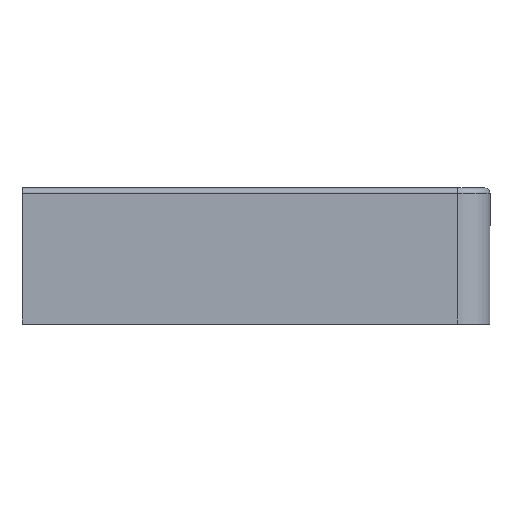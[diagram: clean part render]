
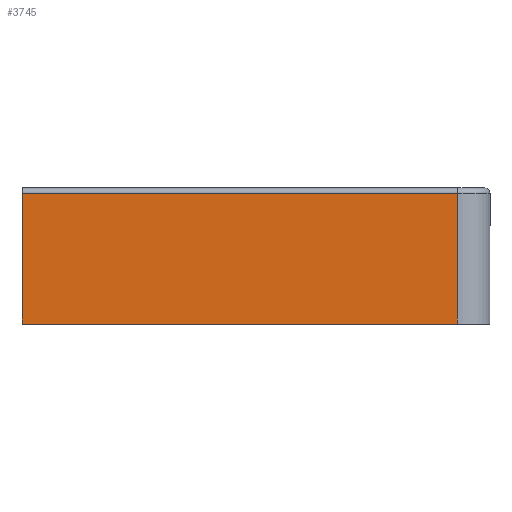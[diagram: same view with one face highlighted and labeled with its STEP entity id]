
A CAD part, left-side view. The second image highlights one B-rep face of the part: STEP entity #3745.
In plain terms, the highlighted planar face has unit normal (-1, 0, 0).
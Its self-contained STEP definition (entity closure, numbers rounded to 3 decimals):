
#311=PLANE('',#4094);
#510=FACE_OUTER_BOUND('',#767,.T.);
#767=EDGE_LOOP('',(#3183,#3184,#3185,#3186));
#1075=LINE('',#6600,#1290);
#1177=LINE('',#15422,#1392);
#1182=LINE('',#15442,#1397);
#1185=LINE('',#15453,#1400);
#1290=VECTOR('',#4409,400.);
#1392=VECTOR('',#4863,120.);
#1397=VECTOR('',#4880,400.);
#1400=VECTOR('',#4897,120.);
#1535=VERTEX_POINT('',#6597);
#1536=VERTEX_POINT('',#6599);
#1701=VERTEX_POINT('',#15421);
#1710=VERTEX_POINT('',#15441);
#1902=EDGE_CURVE('',#1536,#1535,#1075,.T.);
#2197=EDGE_CURVE('',#1536,#1701,#1177,.T.);
#2207=EDGE_CURVE('',#1701,#1710,#1182,.T.);
#2213=EDGE_CURVE('',#1710,#1535,#1185,.T.);
#3183=ORIENTED_EDGE('',*,*,#2207,.F.);
#3184=ORIENTED_EDGE('',*,*,#2197,.F.);
#3185=ORIENTED_EDGE('',*,*,#1902,.T.);
#3186=ORIENTED_EDGE('',*,*,#2213,.F.);
#3745=ADVANCED_FACE('',(#510),#311,.T.);
#4094=AXIS2_PLACEMENT_3D('',#15454,#4898,#4899);
#4409=DIRECTION('',(0.,-1.,0.));
#4863=DIRECTION('',(0.,0.,1.));
#4880=DIRECTION('',(0.,-1.,0.));
#4897=DIRECTION('',(0.,0.,-1.));
#4898=DIRECTION('center_axis',(-1.,0.,0.));
#4899=DIRECTION('ref_axis',(0.,-1.,0.));
#6597=CARTESIAN_POINT('',(-297.5,30.,215.));
#6599=CARTESIAN_POINT('',(-297.5,430.,215.));
#6600=CARTESIAN_POINT('',(-297.5,430.,215.));
#15421=CARTESIAN_POINT('',(-297.5,430.,335.));
#15422=CARTESIAN_POINT('',(-297.5,430.,215.));
#15441=CARTESIAN_POINT('',(-297.5,30.,335.));
#15442=CARTESIAN_POINT('',(-297.5,430.,335.));
#15453=CARTESIAN_POINT('',(-297.5,30.,335.));
#15454=CARTESIAN_POINT('Origin',(-297.5,430.,215.));
